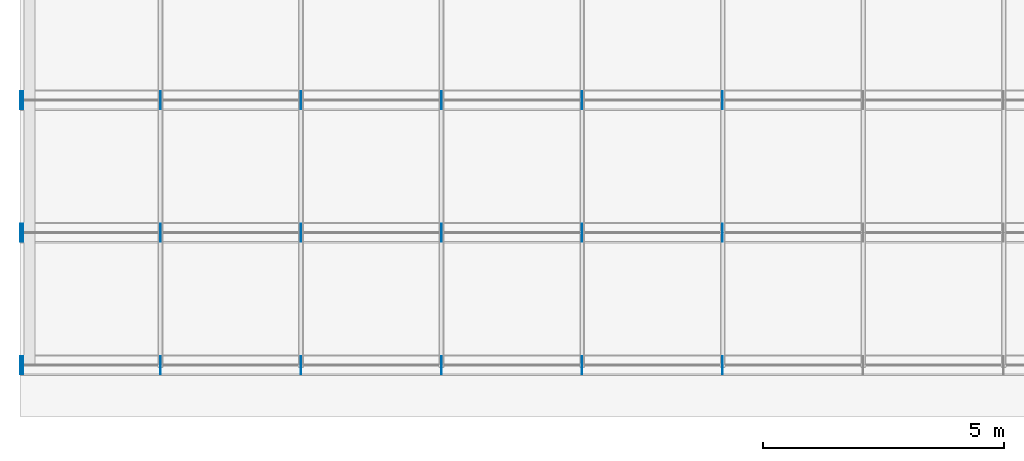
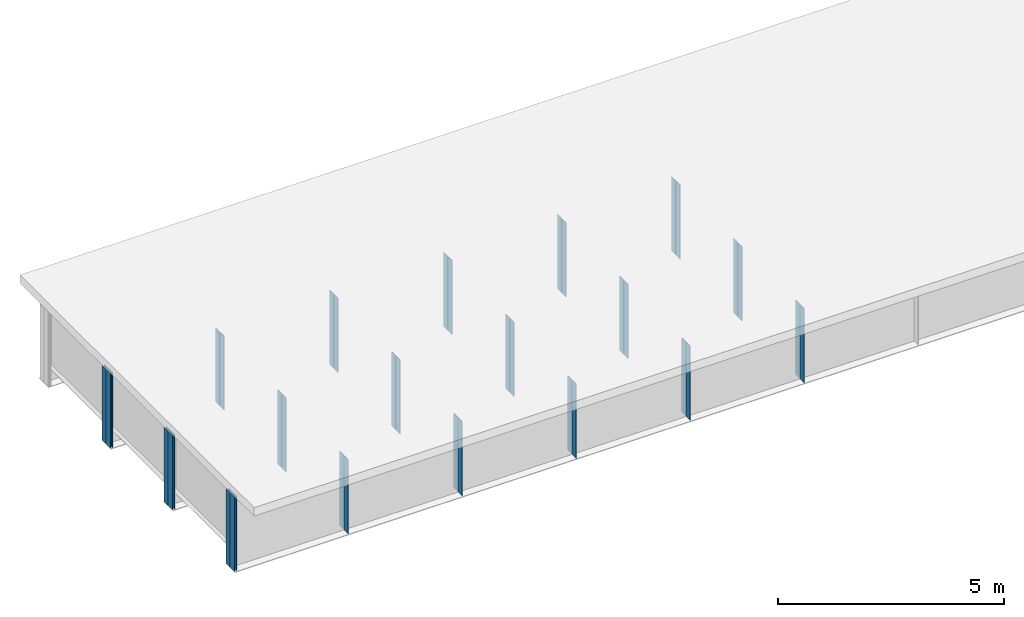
# One storey, part 3 of 13: 42 plates.
"""IFC4 building model written with IfcOpenShell, lengths in metres."""

import ifcopenshell
import ifcopenshell.guid

model = None  # the IFC model being written
_history = None  # IfcOwnerHistory: only IFC2X3 demands one
_inside = {}  # id of a spatial element -> (the spatial element, [elements in it])
_under = {}  # id of a project, library or spatial element -> (it, [spatial elements below it])
_declared = {}  # id of a project -> (the project, [libraries it declares])
_typed = {}  # id of a type object -> (the type object, [elements of that type])
_made_of = {}  # id of a material, layer set ... -> (it, [elements and type objects made of it])


def new_model(schema):
    """Start an empty IFC model of exactly this schema.

    Asked for "IFC4X3", IfcOpenShell would pick the latest addendum, in which some entities
    have other attributes; the version numbers below select the first issue.
    IFC2X3 requires an IfcOwnerHistory on every rooted entity: one is made here for all.
    """
    global model, _history
    if schema == "IFC4X3":
        model = ifcopenshell.file(schema_version=(4, 3, 0, 0))
    else:
        model = ifcopenshell.file(schema=schema)
    _inside.clear()
    _under.clear()
    _declared.clear()
    _typed.clear()
    _made_of.clear()
    _history = None
    if model.schema == "IFC2X3":
        org = make("IfcOrganization", Name="unknown")
        user = make(
            "IfcPersonAndOrganization",
            ThePerson=make("IfcPerson", FamilyName="unknown"),
            TheOrganization=org,
        )
        app = make(
            "IfcApplication",
            ApplicationDeveloper=org,
            Version="unknown",
            ApplicationFullName="unknown",
            ApplicationIdentifier="unknown",
        )
        _history = make(
            "IfcOwnerHistory",
            OwningUser=user,
            OwningApplication=app,
            ChangeAction="ADDED",
            CreationDate=0,
        )
    return model


def make(cls, **values):
    """One entity of the class cls with the attributes given. An attribute that is None is left unset."""
    return model.create_entity(
        cls, **{name: value for name, value in values.items() if value is not None}
    )


def rooted(cls, **values):
    """An entity with a GlobalId (a new one), such as an element, a storey or a relation."""
    return make(cls, GlobalId=ifcopenshell.guid.new(), OwnerHistory=_history, **values)


def si_unit(unit_type, name, prefix=None):
    """IfcSIUnit, for example si_unit("LENGTHUNIT", "METRE", prefix="MILLI")."""
    return make("IfcSIUnit", UnitType=unit_type, Prefix=prefix, Name=name)


def assignment(units):
    """IfcUnitAssignment: the units of a project."""
    return None if units is None else make("IfcUnitAssignment", Units=units)


def point(xyz):
    """IfcCartesianPoint."""
    return None if xyz is None else make("IfcCartesianPoint", Coordinates=xyz)


def direction(xyz):
    """IfcDirection."""
    return None if xyz is None else make("IfcDirection", DirectionRatios=xyz)


def frame(location, z_axis=None, x_axis=None):
    """IfcAxis2Placement3D, a coordinate frame: its origin and axes. An axis left out is left unset."""
    return make(
        "IfcAxis2Placement3D",
        Location=point(location),
        Axis=direction(z_axis),
        RefDirection=direction(x_axis),
    )


def frame_2d(location, x_axis=None):
    """IfcAxis2Placement2D, a coordinate frame in the plane: its origin and x axis."""
    return make(
        "IfcAxis2Placement2D", Location=point(location), RefDirection=direction(x_axis)
    )


def origin():
    """The frame at (0, 0, 0) with its axes left unset."""
    return frame((0.0, 0.0, 0.0))


def origin_with_axes():
    """The frame at (0, 0, 0) with the z axis (0, 0, 1) and the x axis (1, 0, 0) written out."""
    return frame((0.0, 0.0, 0.0), z_axis=(0.0, 0.0, 1.0), x_axis=(1.0, 0.0, 0.0))


def origin_2d_with_axis():
    """The frame at (0, 0) in the plane with the x axis (1, 0) written out."""
    return frame_2d((0.0, 0.0), x_axis=(1.0, 0.0))


def place(relative_to, where):
    """IfcLocalPlacement: puts the frame where relative to a parent placement (None: the world)."""
    return make(
        "IfcLocalPlacement", PlacementRelTo=relative_to, RelativePlacement=where
    )


def context(
    kind, dimensions, precision=None, world=None, true_north=None, identifier=None
):
    """IfcGeometricRepresentationContext, for example the 3D "Model" context."""
    return make(
        "IfcGeometricRepresentationContext",
        ContextIdentifier=identifier,
        ContextType=kind,
        CoordinateSpaceDimension=dimensions,
        Precision=precision,
        WorldCoordinateSystem=world,
        TrueNorth=true_north,
    )


def subcontext(parent, identifier, kind, view, scale=None):
    """IfcGeometricRepresentationSubContext, for example "Body" below "Model"."""
    return make(
        "IfcGeometricRepresentationSubContext",
        ContextIdentifier=identifier,
        ContextType=kind,
        ParentContext=parent,
        TargetScale=scale,
        TargetView=view,
    )


def project(units=None, contexts=None):
    """IfcProject with its units and contexts."""
    return rooted(
        "IfcProject",
        Name="project",
        RepresentationContexts=contexts,
        UnitsInContext=assignment(units),
    )


def spatial(cls, under=None, at=None, **own):
    """A site, building, storey or space (cls), placed at a placement, below another one or the project."""
    s = rooted(cls, ObjectPlacement=at, **own)
    if under is not None:
        _under.setdefault(under.id(), (under, []))[1].append(s)
    return s


def profile(cls, at=None, kind="AREA", **sizes):
    """A parametric profile (cls). Its sizes go by their IFC names, for example OverallWidth=200.0."""
    return make(cls, ProfileType=kind, Position=at, **sizes)


def rectangle(**sizes):
    """IfcRectangleProfileDef."""
    return profile("IfcRectangleProfileDef", **sizes)


def extrude(swept, where, along, depth):
    """IfcExtrudedAreaSolid: the profile swept, set in the frame where, extruded along a direction by depth."""
    return make(
        "IfcExtrudedAreaSolid",
        SweptArea=swept,
        Position=where,
        ExtrudedDirection=direction(along),
        Depth=depth,
    )


def shape(context_of_items, identifier, shape_type, items):
    """IfcShapeRepresentation: the items that make up one representation, for example the "Body"."""
    return make(
        "IfcShapeRepresentation",
        ContextOfItems=context_of_items,
        RepresentationIdentifier=identifier,
        RepresentationType=shape_type,
        Items=items,
    )


def made_of(thing, what):
    """Note that an element or type object is made of a material, layer set ...; save() writes the relation."""
    if what is not None:
        _made_of.setdefault(what.id(), (what, []))[1].append(thing)
    return thing


def element(
    cls,
    number,
    at=None,
    inside=None,
    cuts=None,
    type_object=None,
    material=None,
    context=None,
    identifier="Body",
    shape_type=None,
    held_by="IfcProductDefinitionShape",
    body=None,
    shapes=None,
    **own,
):
    """One element of the class cls, such as IfcWall. Its Tag is "e" and its number.

    at: its placement. inside: the storey or other place that contains it. cuts: it is an
    opening in that element (IfcRelVoidsElement). A single representation is given by context,
    identifier, shape_type and body (its items); several are given by shapes. held_by: the class
    of the entity that holds the representations. save() writes the other relations.
    """
    e = rooted(cls, Tag="e%d" % number, ObjectPlacement=at, **own)
    if body is not None:
        shapes = [shape(context, identifier, shape_type, body)]
    if shapes is not None:
        e.Representation = make(held_by, Representations=shapes)
    if inside is not None:
        _inside.setdefault(inside.id(), (inside, []))[1].append(e)
    if cuts is not None:
        rooted(
            "IfcRelVoidsElement", RelatingBuildingElement=cuts, RelatedOpeningElement=e
        )
    if type_object is not None:
        _typed.setdefault(type_object.id(), (type_object, []))[1].append(e)
    return made_of(e, material)


def aggregate(whole, parts):
    """IfcRelAggregates: a whole, such as a stair, and the parts it consists of."""
    return rooted("IfcRelAggregates", RelatingObject=whole, RelatedObjects=parts)


def save(model, path):
    """Write the relations noted so far, then the file.

    IfcRelAggregates (storeys below a building ...), IfcRelContainedInSpatialStructure (elements
    in a storey), IfcRelDefinesByType, IfcRelAssociatesMaterial and IfcRelDeclares: one each for
    every whole, place, type object, material and project.
    """
    for whole, parts in _under.values():
        aggregate(whole, parts)
    for where, things in _inside.values():
        rooted(
            "IfcRelContainedInSpatialStructure",
            RelatedElements=things,
            RelatingStructure=where,
        )
    for kind, things in _typed.values():
        rooted("IfcRelDefinesByType", RelatedObjects=things, RelatingType=kind)
    for what, things in _made_of.values():
        rooted("IfcRelAssociatesMaterial", RelatedObjects=things, RelatingMaterial=what)
    for by, libraries in _declared.values():
        rooted("IfcRelDeclares", RelatingContext=by, RelatedDefinitions=libraries)
    model.write(path)


model = new_model("IFC4")

# Units and contexts
model_context = context("Model", 3, precision=1e-05, world=origin())
body_context = subcontext(model_context, "Body", "Model", "MODEL_VIEW")
ifc_project = project(units=[si_unit("LENGTHUNIT", "METRE"), si_unit("AREAUNIT", "SQUARE_METRE"), si_unit("VOLUMEUNIT", "CUBIC_METRE"), si_unit("PLANEANGLEUNIT", "RADIAN")], contexts=[model_context])

# Site, building, storey
site_placement = place(None, origin_with_axes())
site = spatial("IfcSite", under=ifc_project, at=site_placement, Name="Default Site")
building_placement = place(site_placement, origin_with_axes())
building = spatial("IfcBuilding", under=site, at=building_placement, Name="Bridge Structure")
storey_placement = place(building_placement, origin_with_axes())
storey = spatial("IfcBuildingStorey", under=building, at=storey_placement, Name="Superstructure")

# Plates
for number, where, z_axis, x_axis, name in (
    (1, (2.916, -4.02675, -1.005), (0.0, 0.0, 1.0), (1.0, 0.0, 0.0), "Intermediate Stiffener 1"),
    (2, (2.916, -4.22325, -1.005), (0.0, 0.0, 1.0), (1.0, 0.0, 0.0), "Intermediate Stiffener 1"),
    (3, (5.832, -4.02675, -1.005), (0.0, 0.0, 1.0), (1.0, 0.0, 0.0), "Intermediate Stiffener 1"),
    (4, (5.832, -4.22325, -1.005), (0.0, 0.0, 1.0), (1.0, 0.0, 0.0), "Intermediate Stiffener 1"),
    (5, (8.748, -4.02675, -1.005), (0.0, 0.0, 1.0), (1.0, 0.0, 0.0), "Intermediate Stiffener 1"),
    (6, (8.748, -4.22325, -1.005), (0.0, 0.0, 1.0), (1.0, 0.0, 0.0), "Intermediate Stiffener 1"),
    (7, (11.664, -4.02675, -1.005), (0.0, 0.0, 1.0), (1.0, 0.0, 0.0), "Intermediate Stiffener 1"),
    (8, (11.664, -4.22325, -1.005), (0.0, 0.0, 1.0), (1.0, 0.0, 0.0), "Intermediate Stiffener 1"),
    (9, (14.58, -4.02675, -1.005), (0.0, 0.0, 1.0), (1.0, 0.0, 0.0), "Intermediate Stiffener 1"),
    (10, (14.58, -4.22325, -1.005), (0.0, 0.0, 1.0), (1.0, 0.0, 0.0), "Intermediate Stiffener 1"),
):
    element("IfcPlate", number, at=place(storey_placement, frame(where, z_axis=z_axis, x_axis=x_axis)), inside=storey, Name=name, context=body_context, shape_type="SweptSolid", body=[
        extrude(rectangle(XDim=0.012, YDim=0.1785, at=origin_2d_with_axis()), origin_with_axes(), (0.0, 0.0, 1.0), 2.01),
    ])
for number, where, z_axis, x_axis, name in (
    (11, (0.01, -4.02675, -1.005), (0.0, 0.0, 1.0), (1.0, 0.0, 0.0), "End Stiffener 1"),
    (12, (0.01, -4.22325, -1.005), (0.0, 0.0, 1.0), (1.0, 0.0, 0.0), "End Stiffener 1"),
    (13, (0.06, -4.02675, -1.005), (0.0, 0.0, 1.0), (1.0, 0.0, 0.0), "End Stiffener 1"),
    (14, (0.06, -4.22325, -1.005), (0.0, 0.0, 1.0), (1.0, 0.0, 0.0), "End Stiffener 1"),
):
    element("IfcPlate", number, at=place(storey_placement, frame(where, z_axis=z_axis, x_axis=x_axis)), inside=storey, Name=name, context=body_context, shape_type="SweptSolid", body=[
        extrude(rectangle(XDim=0.02, YDim=0.1785, at=origin_2d_with_axis()), origin_with_axes(), (0.0, 0.0, 1.0), 2.01),
    ])
for number, where, z_axis, x_axis, name in (
    (15, (2.916, -1.27675, -1.005), (0.0, 0.0, 1.0), (1.0, 0.0, 0.0), "Intermediate Stiffener 2"),
    (16, (2.916, -1.47325, -1.005), (0.0, 0.0, 1.0), (1.0, 0.0, 0.0), "Intermediate Stiffener 2"),
    (17, (5.832, -1.27675, -1.005), (0.0, 0.0, 1.0), (1.0, 0.0, 0.0), "Intermediate Stiffener 2"),
    (18, (5.832, -1.47325, -1.005), (0.0, 0.0, 1.0), (1.0, 0.0, 0.0), "Intermediate Stiffener 2"),
    (19, (8.748, -1.27675, -1.005), (0.0, 0.0, 1.0), (1.0, 0.0, 0.0), "Intermediate Stiffener 2"),
    (20, (8.748, -1.47325, -1.005), (0.0, 0.0, 1.0), (1.0, 0.0, 0.0), "Intermediate Stiffener 2"),
    (21, (11.664, -1.27675, -1.005), (0.0, 0.0, 1.0), (1.0, 0.0, 0.0), "Intermediate Stiffener 2"),
    (22, (11.664, -1.47325, -1.005), (0.0, 0.0, 1.0), (1.0, 0.0, 0.0), "Intermediate Stiffener 2"),
    (23, (14.58, -1.27675, -1.005), (0.0, 0.0, 1.0), (1.0, 0.0, 0.0), "Intermediate Stiffener 2"),
    (24, (14.58, -1.47325, -1.005), (0.0, 0.0, 1.0), (1.0, 0.0, 0.0), "Intermediate Stiffener 2"),
):
    element("IfcPlate", number, at=place(storey_placement, frame(where, z_axis=z_axis, x_axis=x_axis)), inside=storey, Name=name, context=body_context, shape_type="SweptSolid", body=[
        extrude(rectangle(XDim=0.012, YDim=0.1785, at=origin_2d_with_axis()), origin_with_axes(), (0.0, 0.0, 1.0), 2.01),
    ])
for number, where, z_axis, x_axis, name in (
    (25, (0.01, -1.27675, -1.005), (0.0, 0.0, 1.0), (1.0, 0.0, 0.0), "End Stiffener 2"),
    (26, (0.01, -1.47325, -1.005), (0.0, 0.0, 1.0), (1.0, 0.0, 0.0), "End Stiffener 2"),
    (27, (0.06, -1.27675, -1.005), (0.0, 0.0, 1.0), (1.0, 0.0, 0.0), "End Stiffener 2"),
    (28, (0.06, -1.47325, -1.005), (0.0, 0.0, 1.0), (1.0, 0.0, 0.0), "End Stiffener 2"),
):
    element("IfcPlate", number, at=place(storey_placement, frame(where, z_axis=z_axis, x_axis=x_axis)), inside=storey, Name=name, context=body_context, shape_type="SweptSolid", body=[
        extrude(rectangle(XDim=0.02, YDim=0.1785, at=origin_2d_with_axis()), origin_with_axes(), (0.0, 0.0, 1.0), 2.01),
    ])
for number, where, z_axis, x_axis, name in (
    (29, (2.916, 1.47325, -1.005), (0.0, 0.0, 1.0), (1.0, 0.0, 0.0), "Intermediate Stiffener 3"),
    (30, (2.916, 1.27675, -1.005), (0.0, 0.0, 1.0), (1.0, 0.0, 0.0), "Intermediate Stiffener 3"),
    (31, (5.832, 1.47325, -1.005), (0.0, 0.0, 1.0), (1.0, 0.0, 0.0), "Intermediate Stiffener 3"),
    (32, (5.832, 1.27675, -1.005), (0.0, 0.0, 1.0), (1.0, 0.0, 0.0), "Intermediate Stiffener 3"),
    (33, (8.748, 1.47325, -1.005), (0.0, 0.0, 1.0), (1.0, 0.0, 0.0), "Intermediate Stiffener 3"),
    (34, (8.748, 1.27675, -1.005), (0.0, 0.0, 1.0), (1.0, 0.0, 0.0), "Intermediate Stiffener 3"),
    (35, (11.664, 1.47325, -1.005), (0.0, 0.0, 1.0), (1.0, 0.0, 0.0), "Intermediate Stiffener 3"),
    (36, (11.664, 1.27675, -1.005), (0.0, 0.0, 1.0), (1.0, 0.0, 0.0), "Intermediate Stiffener 3"),
    (37, (14.58, 1.47325, -1.005), (0.0, 0.0, 1.0), (1.0, 0.0, 0.0), "Intermediate Stiffener 3"),
    (38, (14.58, 1.27675, -1.005), (0.0, 0.0, 1.0), (1.0, 0.0, 0.0), "Intermediate Stiffener 3"),
):
    element("IfcPlate", number, at=place(storey_placement, frame(where, z_axis=z_axis, x_axis=x_axis)), inside=storey, Name=name, context=body_context, shape_type="SweptSolid", body=[
        extrude(rectangle(XDim=0.012, YDim=0.1785, at=origin_2d_with_axis()), origin_with_axes(), (0.0, 0.0, 1.0), 2.01),
    ])
for number, where, z_axis, x_axis, name in (
    (39, (0.01, 1.47325, -1.005), (0.0, 0.0, 1.0), (1.0, 0.0, 0.0), "End Stiffener 3"),
    (40, (0.01, 1.27675, -1.005), (0.0, 0.0, 1.0), (1.0, 0.0, 0.0), "End Stiffener 3"),
    (41, (0.06, 1.47325, -1.005), (0.0, 0.0, 1.0), (1.0, 0.0, 0.0), "End Stiffener 3"),
    (42, (0.06, 1.27675, -1.005), (0.0, 0.0, 1.0), (1.0, 0.0, 0.0), "End Stiffener 3"),
):
    element("IfcPlate", number, at=place(storey_placement, frame(where, z_axis=z_axis, x_axis=x_axis)), inside=storey, Name=name, context=body_context, shape_type="SweptSolid", body=[
        extrude(rectangle(XDim=0.02, YDim=0.1785, at=origin_2d_with_axis()), origin_with_axes(), (0.0, 0.0, 1.0), 2.01),
    ])

save(model, "model.ifc")
